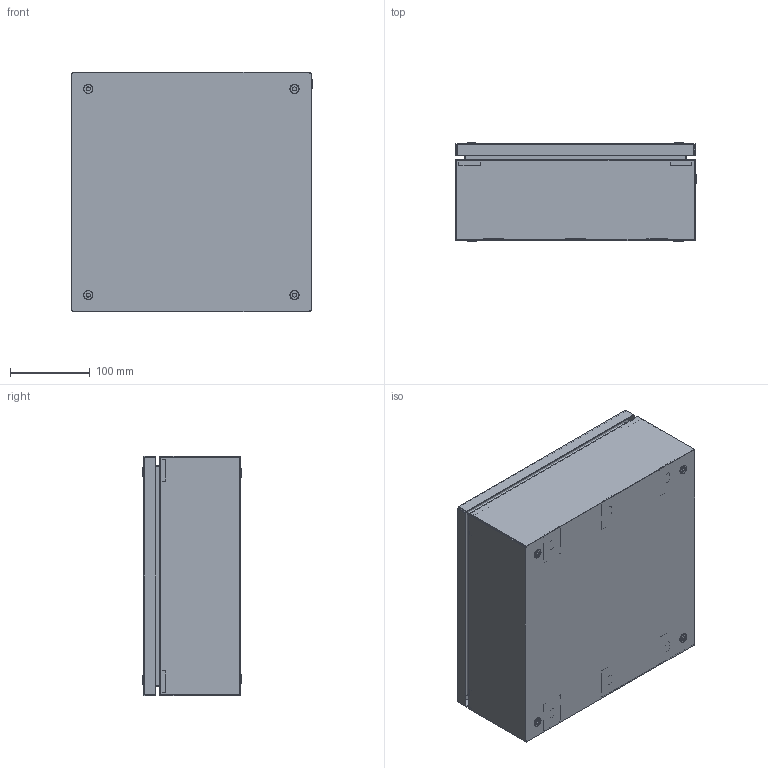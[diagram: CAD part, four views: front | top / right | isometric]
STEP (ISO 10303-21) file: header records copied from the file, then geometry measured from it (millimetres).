
FILE_DESCRIPTION(('Open CASCADE Model'),'2;1');
FILE_NAME('Open CASCADE Shape Model','2025-11-18T11:38:39',('Author'),( 'Open CASCADE'),'Open CASCADE STEP processor 7.8','Open CASCADE 7.8' ,'Unknown');
FILE_SCHEMA(('AUTOMOTIVE_DESIGN { 1 0 10303 214 1 1 1 1 }'));
Length unit declared in the file: millimetre
Products named in the file (19): Compound1; Compound2; Compound3; Compound4; Solid1; Solid2; Solid3; Solid4; Solid5; Solid6; Compound5; Compound6; Solid7; Solid8; Solid9; Solid10; Solid11; Solid12; Solid13
Assembly tree (33 placements, depth 5):
  Compound1
    Compound2
      Compound3
        Compound4
          Solid1
          Solid2  x2
          Solid3  x2
          Solid4  x2
          Solid5
        Solid6
      Compound5
        Compound6
          Solid7
          Solid8
        Solid9
      Solid10  x4
      Solid11  x4
      Solid12  x4
    Solid13  x4
Bounding box: 301.5 x 123.79 x 300 mm (x, y, z)
Volume: 568129.8 mm3; surface area: 819296.1 mm2
Topology: 28 solids, 28 shells, 970 faces, 2613 edges, 1728 vertices
Faces by surface type: plane 693, cylinder 151, cone 48, bspline 40, torus 30, sphere 8
Full cylindrical faces by diameter (mm): 4 x22, 4.134 x4, 5 x9, 5.2 x4, 5.3 x4, 5.5 x4, 6 x2, 6.5 x4, 7.5 x6, 7.8 x4, 8 x4, 8.5 x5, 9 x1, 9.1 x1, 11.5 x4, 12 x1, 13.5 x4, 15.791 x4
Entity records: 16732 total; most frequent: CARTESIAN_POINT 5043, ORIENTED_EDGE 2448, DIRECTION 2196, EDGE_CURVE 1224, VERTEX_POINT 809, LINE 792, VECTOR 792, AXIS2_PLACEMENT_3D 702
